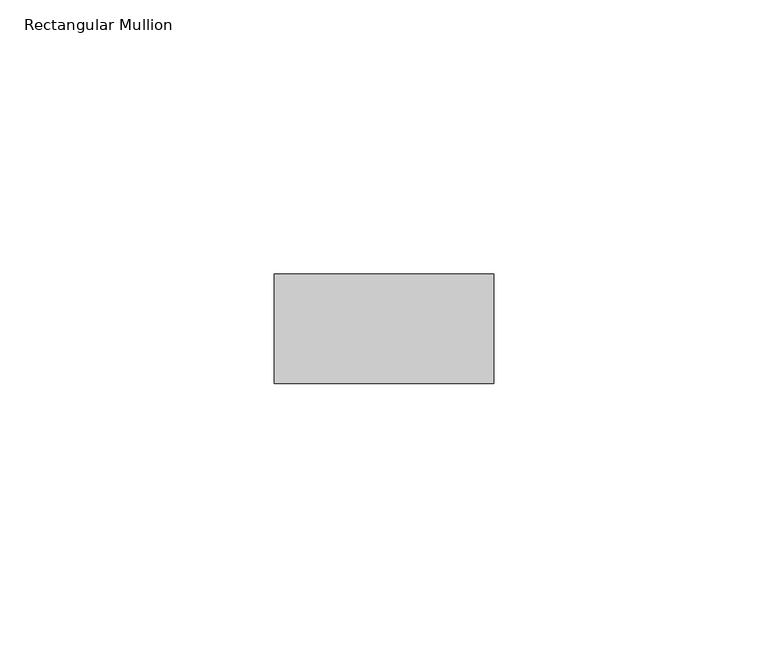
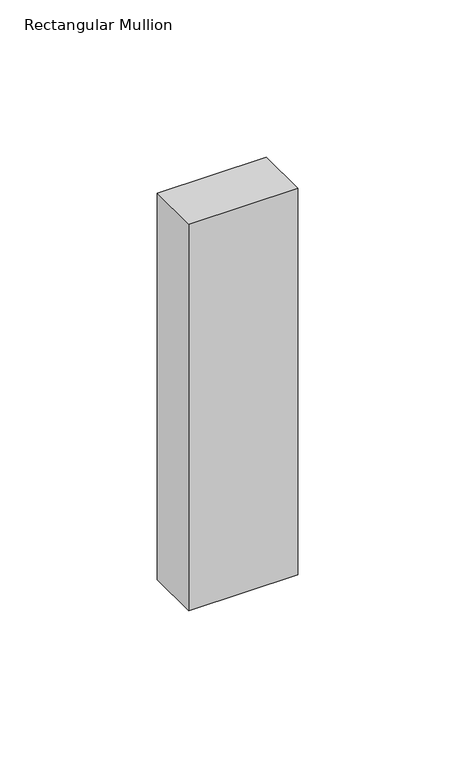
"""IFC4 building model written with IfcOpenShell, lengths in millimetres: member geometry, Rectangular Mullion : RIPA 4x2 cm."""

from ifc_helpers import new_model, si_unit, frame, origin, place, context, project, spatial, polyline, outline, extrude, source, transform, mapped, element, save


def rectangular_mullion_e81b1cfb(model_context):
    return source(origin(), model_context, "Body", "SweptSolid", [
        extrude(outline(polyline([(0.0, 0.0), (0.0, -20.0), (-40.0, -20.0), (-40.0, 0.0), (0.0, 0.0)])), frame((0.0, 0.0, -150.0), z_axis=(0.0, 0.0, 1.0), x_axis=(1.0, 0.0, 0.0)), (0.0, 0.0, 1.0), 150.0),
    ])


if __name__ == "__main__":
    model = new_model("IFC4")
    model_context = context("Model", 3, world=origin())
    ifc_project = project(units=[si_unit("LENGTHUNIT", "METRE", prefix="MILLI")], contexts=[model_context])
    site = spatial("IfcSite", under=ifc_project)
    building = spatial("IfcBuilding", under=site)
    placement = place(None, origin())
    rectangular_mullion_shape = rectangular_mullion_e81b1cfb(model_context)
    element("IfcMember", 1, ObjectType="Rectangular Mullion : RIPA 4x2 cm", at=placement, inside=building, context=model_context, shape_type="MappedRepresentation", body=[
        mapped(rectangular_mullion_shape, transform((0.0, 0.0, 0.0), x_axis=(1.0, 0.0, 0.0), y_axis=(0.0, 1.0, 0.0), z_axis=(0.0, 0.0, 1.0))),
    ])
    save(model, "model.ifc")
